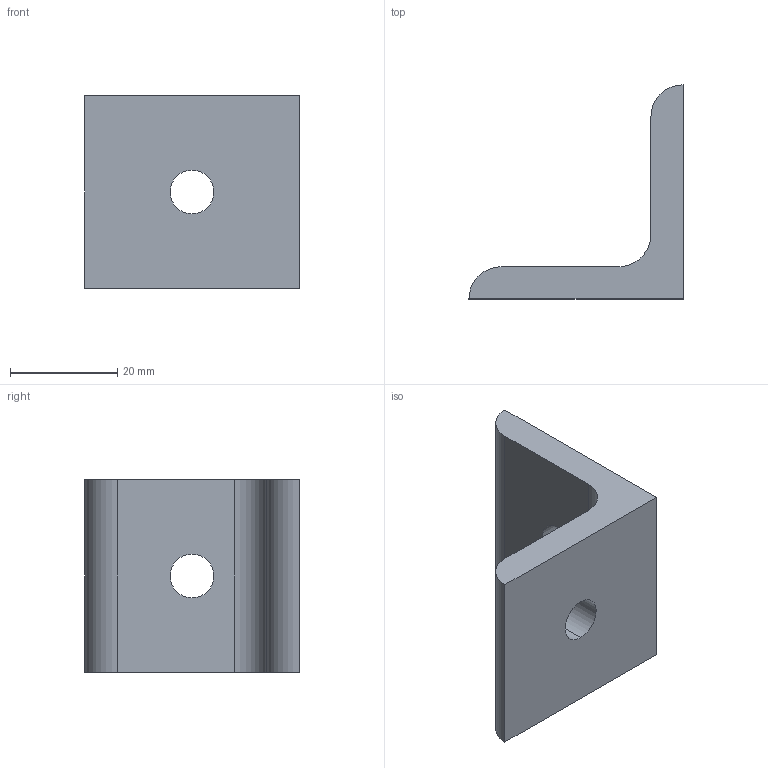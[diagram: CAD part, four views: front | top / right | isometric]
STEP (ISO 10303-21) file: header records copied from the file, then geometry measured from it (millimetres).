
FILE_DESCRIPTION (( 'STEP AP214' ), '1' );
FILE_NAME ('6003.STEP', '2015-04-22T05:18:31', ( 'user' ), ( '' ), 'SwSTEP 2.0', 'SolidWorks 2014', '' );
FILE_SCHEMA (( 'AUTOMOTIVE_DESIGN' ));
Length unit declared in the file: millimetre
Products named in the file (1): 6003
Bounding box: 40 x 40 x 36 mm (x, y, z)
Volume: 15072.2 mm3; surface area: 6452.3 mm2
Topology: 1 solids, 1 shells, 13 faces, 33 edges, 22 vertices
Faces by surface type: cylinder 7, plane 6
Entity records: 443 total; most frequent: DIRECTION 75, CARTESIAN_POINT 69, ORIENTED_EDGE 66, EDGE_CURVE 33, AXIS2_PLACEMENT_3D 28, VERTEX_POINT 22, VECTOR 19, LINE 19
